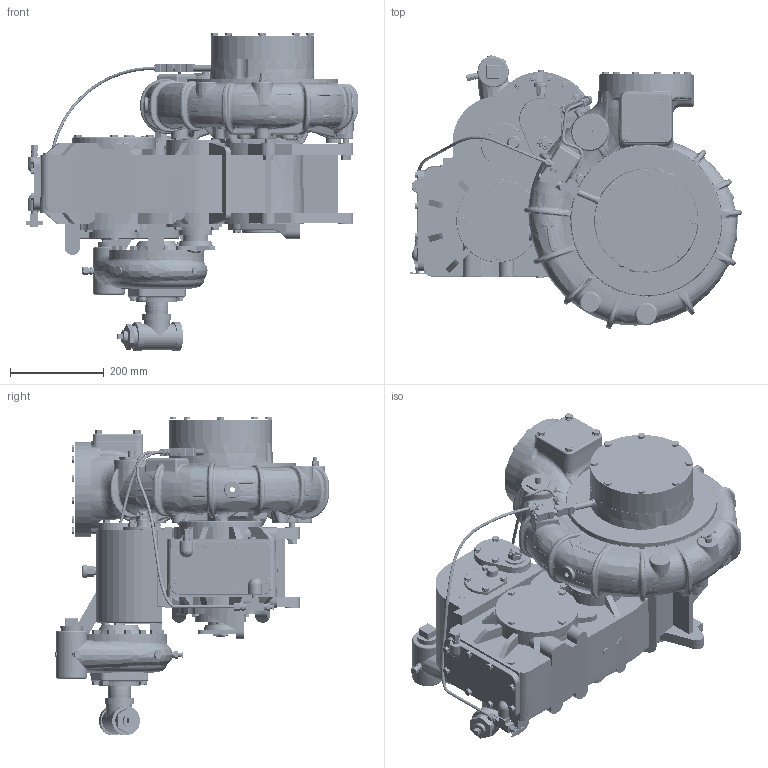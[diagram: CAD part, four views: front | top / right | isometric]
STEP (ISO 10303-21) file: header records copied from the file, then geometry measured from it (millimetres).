
FILE_DESCRIPTION((''),'2;1');
FILE_NAME('DPD0804_SW0001','2016-05-05T',('wah'),(''),'PRO/ENGINEER BY PARAMETRIC TECHNOLOGY CORPORATION, 2013150','PRO/ENGINEER BY PARAMETRIC TECHNOLOGY CORPORATION, 2013150','');
FILE_SCHEMA(('CONFIG_CONTROL_DESIGN'));
Products named in the file (1): DPD0804_SW0001
Bounding box: 707.08 x 583.55 x 678.39 mm (x, y, z)
Surface area: 2786680 mm2 (no closed solid volume)
Topology: 0 solids, 304 shells, 6393 faces, 16315 edges, 10019 vertices
Faces by surface type: bspline 2951, plane 1549, cone 880, cylinder 759, torus 168, sphere 86
Entity records: 301444 total; most frequent: CARTESIAN_POINT 172787, ORIENTED_EDGE 29964, DIRECTION 20382, EDGE_CURVE 16307, VERTEX_POINT 10019, AXIS2_PLACEMENT_3D 8197, B_SPLINE_CURVE_WITH_KNOTS 7564, EDGE_LOOP 6393
